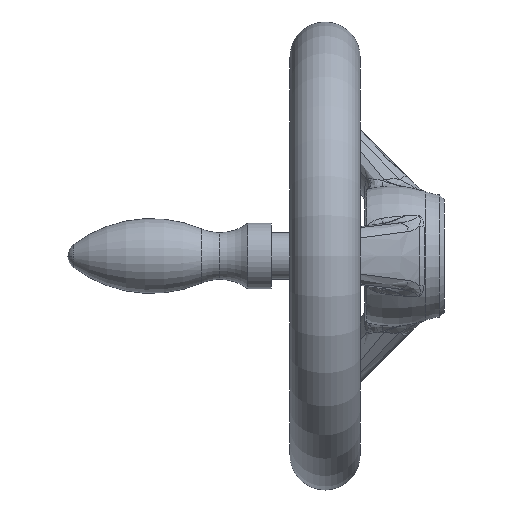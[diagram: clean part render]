
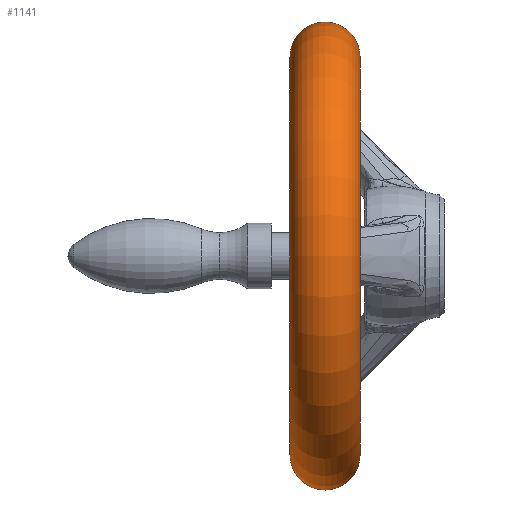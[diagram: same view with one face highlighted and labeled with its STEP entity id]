
A CAD part, left-side view. The second image highlights one B-rep face of the part: STEP entity #1141.
In plain terms, the highlighted toroidal (fillet/blend) face has major radius 42.5 mm and minor radius 7.5 mm.
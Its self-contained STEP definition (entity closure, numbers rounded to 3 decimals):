
#1101 = ORIENTED_EDGE ( 'NONE', *, *, #11269, .F. ) ;
#1120 = EDGE_LOOP ( 'NONE', ( #1101, #1135, #1134, #23017 ) ) ;
#1134 = ORIENTED_EDGE ( 'NONE', *, *, #11158, .T. ) ;
#1135 = ORIENTED_EDGE ( 'NONE', *, *, #22574, .T. ) ;
#1141 = ADVANCED_FACE ( 'NONE', ( #14165 ), #14164, .T. ) ;
#1283 = VERTEX_POINT ( 'NONE', #14241 ) ;
#1297 = VERTEX_POINT ( 'NONE', #14297 ) ;
#6145 = CARTESIAN_POINT ( 'NONE',  ( 0., 33., -42.5 ) ) ;
#9201 = AXIS2_PLACEMENT_3D ( 'NONE', #9242, #9241, #9240 ) ;
#9203 = CIRCLE ( 'NONE', #9201, 42.5 ) ;
#9235 = CARTESIAN_POINT ( 'NONE',  ( 0., 33., 42.5 ) ) ;
#9240 = DIRECTION ( 'NONE',  ( 0., 0., -1. ) ) ;
#9241 = DIRECTION ( 'NONE',  ( 0., -1., 0. ) ) ;
#9242 = CARTESIAN_POINT ( 'NONE',  ( 0., 33., 0. ) ) ;
#11158 = EDGE_CURVE ( 'NONE', #20034, #1283, #18787, .T. ) ;
#11246 = EDGE_CURVE ( 'NONE', #1297, #1283, #18824, .T. ) ;
#11269 = EDGE_CURVE ( 'NONE', #22602, #1297, #18842, .T. ) ;
#14154 = DIRECTION ( 'NONE',  ( 0., 0., -1. ) ) ;
#14164 = TOROIDAL_SURFACE ( 'NONE', #14180, 42.5, 7.5 ) ;
#14165 = FACE_OUTER_BOUND ( 'NONE', #1120, .T. ) ;
#14176 = CARTESIAN_POINT ( 'NONE',  ( 0., 25.5, 0. ) ) ;
#14177 = DIRECTION ( 'NONE',  ( 0., -1., 0. ) ) ;
#14180 = AXIS2_PLACEMENT_3D ( 'NONE', #14176, #14177, #14154 ) ;
#14241 = CARTESIAN_POINT ( 'NONE',  ( 0., 18., -42.5 ) ) ;
#14297 = CARTESIAN_POINT ( 'NONE',  ( 0., 18., 42.5 ) ) ;
#18764 = DIRECTION ( 'NONE',  ( -1., 0., 0. ) ) ;
#18784 = CARTESIAN_POINT ( 'NONE',  ( 0., 25.5, -42.5 ) ) ;
#18787 = CIRCLE ( 'NONE', #18817, 7.5 ) ;
#18816 = DIRECTION ( 'NONE',  ( 0., 0., 1. ) ) ;
#18817 = AXIS2_PLACEMENT_3D ( 'NONE', #18784, #18764, #18816 ) ;
#18824 = CIRCLE ( 'NONE', #18850, 42.5 ) ;
#18826 = AXIS2_PLACEMENT_3D ( 'NONE', #18890, #18889, #18888 ) ;
#18833 = DIRECTION ( 'NONE',  ( 0., -1., 0. ) ) ;
#18840 = CARTESIAN_POINT ( 'NONE',  ( 0., 18., 0. ) ) ;
#18842 = CIRCLE ( 'NONE', #18826, 7.5 ) ;
#18850 = AXIS2_PLACEMENT_3D ( 'NONE', #18840, #18833, #18892 ) ;
#18888 = DIRECTION ( 'NONE',  ( 0., 0., -1. ) ) ;
#18889 = DIRECTION ( 'NONE',  ( 1., 0., 0. ) ) ;
#18890 = CARTESIAN_POINT ( 'NONE',  ( 0., 25.5, 42.5 ) ) ;
#18892 = DIRECTION ( 'NONE',  ( 0., 0., -1. ) ) ;
#20034 = VERTEX_POINT ( 'NONE', #6145 ) ;
#22574 = EDGE_CURVE ( 'NONE', #22602, #20034, #9203, .T. ) ;
#22602 = VERTEX_POINT ( 'NONE', #9235 ) ;
#23017 = ORIENTED_EDGE ( 'NONE', *, *, #11246, .F. ) ;
